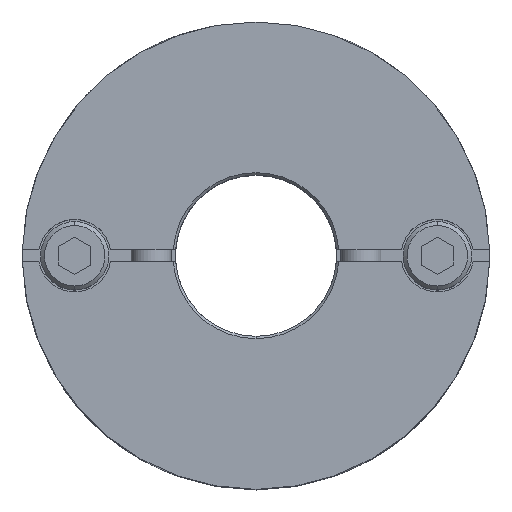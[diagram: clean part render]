
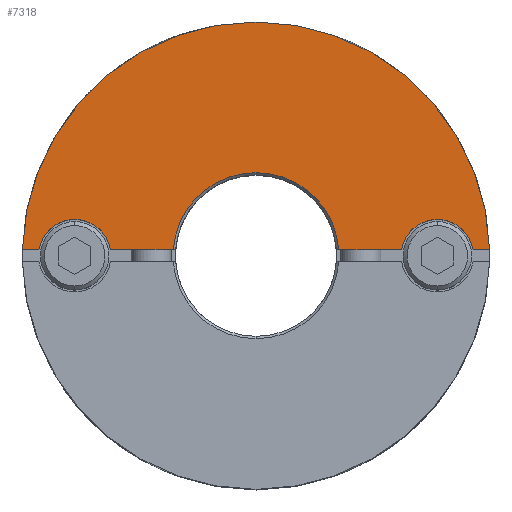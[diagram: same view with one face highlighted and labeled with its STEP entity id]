
A CAD part, top view. The second image highlights one B-rep face of the part: STEP entity #7318.
In plain terms, the highlighted planar face has unit normal (0, 0, 1).
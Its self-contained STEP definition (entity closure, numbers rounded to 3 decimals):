
#605=CARTESIAN_POINT('',(0.,29.,22.4));
#606=VERTEX_POINT('',#605);
#690=CARTESIAN_POINT('',(-28.99,0.75,22.4));
#691=VERTEX_POINT('',#690);
#698=CARTESIAN_POINT('',(0.0,0.,22.4));
#699=DIRECTION('',(0.0,0.0,-1.0));
#700=DIRECTION('',(0.0,1.0,0.0));
#701=AXIS2_PLACEMENT_3D('',#698,#699,#700);
#702=CIRCLE('',#701,29.0);
#703=EDGE_CURVE('',#691,#606,#702,.T.);
#1021=CARTESIAN_POINT('',(0.,10.3,22.4));
#1022=VERTEX_POINT('',#1021);
#1029=CARTESIAN_POINT('',(-10.273,0.75,22.4));
#1030=VERTEX_POINT('',#1029);
#1031=CARTESIAN_POINT('',(0.0,0.,22.4));
#1032=DIRECTION('',(0.0,0.0,1.0));
#1033=DIRECTION('',(0.0,-1.0,0.0));
#1034=AXIS2_PLACEMENT_3D('',#1031,#1032,#1033);
#1035=CIRCLE('',#1034,10.3);
#1036=EDGE_CURVE('',#1022,#1030,#1035,.T.);
#1099=CARTESIAN_POINT('',(-22.5,4.5,22.4));
#1100=VERTEX_POINT('',#1099);
#1109=CARTESIAN_POINT('',(-26.937,0.75,22.4));
#1110=VERTEX_POINT('',#1109);
#1111=CARTESIAN_POINT('',(-22.5,0.,22.4));
#1112=DIRECTION('',(0.0,0.0,-1.0));
#1113=DIRECTION('',(0.0,1.0,0.0));
#1114=AXIS2_PLACEMENT_3D('',#1111,#1112,#1113);
#1115=CIRCLE('',#1114,4.5);
#1116=EDGE_CURVE('',#1110,#1100,#1115,.T.);
#1183=CARTESIAN_POINT('',(22.5,4.5,22.4));
#1184=VERTEX_POINT('',#1183);
#1193=CARTESIAN_POINT('',(18.063,0.75,22.4));
#1194=VERTEX_POINT('',#1193);
#1195=CARTESIAN_POINT('',(22.5,0.,22.4));
#1196=DIRECTION('',(0.0,0.0,-1.0));
#1197=DIRECTION('',(0.0,1.0,0.0));
#1198=AXIS2_PLACEMENT_3D('',#1195,#1196,#1197);
#1199=CIRCLE('',#1198,4.5);
#1200=EDGE_CURVE('',#1194,#1184,#1199,.T.);
#6994=CARTESIAN_POINT('',(26.937,0.75,22.4));
#6995=VERTEX_POINT('',#6994);
#7002=CARTESIAN_POINT('',(22.5,0.,22.4));
#7003=DIRECTION('',(0.0,0.0,-1.0));
#7004=DIRECTION('',(0.0,1.0,0.0));
#7005=AXIS2_PLACEMENT_3D('',#7002,#7003,#7004);
#7006=CIRCLE('',#7005,4.5);
#7007=EDGE_CURVE('',#1184,#6995,#7006,.T.);
#7060=CARTESIAN_POINT('',(-18.063,0.75,22.4));
#7061=VERTEX_POINT('',#7060);
#7068=CARTESIAN_POINT('',(-22.5,0.,22.4));
#7069=DIRECTION('',(0.0,0.0,-1.0));
#7070=DIRECTION('',(0.0,1.0,0.0));
#7071=AXIS2_PLACEMENT_3D('',#7068,#7069,#7070);
#7072=CIRCLE('',#7071,4.5);
#7073=EDGE_CURVE('',#1100,#7061,#7072,.T.);
#7092=CARTESIAN_POINT('',(28.99,0.75,22.4));
#7093=VERTEX_POINT('',#7092);
#7100=CARTESIAN_POINT('',(26.937,0.75,22.4));
#7101=DIRECTION('',(1.0,0.0,0.0));
#7102=VECTOR('',#7101,2.053);
#7103=LINE('',#7100,#7102);
#7104=EDGE_CURVE('',#6995,#7093,#7103,.T.);
#7115=CARTESIAN_POINT('',(10.273,0.75,22.4));
#7116=VERTEX_POINT('',#7115);
#7117=CARTESIAN_POINT('',(10.273,0.75,22.4));
#7118=DIRECTION('',(1.0,0.0,0.0));
#7119=VECTOR('',#7118,7.79);
#7120=LINE('',#7117,#7119);
#7121=EDGE_CURVE('',#7116,#1194,#7120,.T.);
#7277=CARTESIAN_POINT('',(0.,2.636,22.4));
#7278=DIRECTION('',(0.0,0.0,1.0));
#7279=DIRECTION('',(0.0,1.0,0.0));
#7280=AXIS2_PLACEMENT_3D('',#7277,#7278,#7279);
#7281=PLANE('',#7280);
#7282=ORIENTED_EDGE('',*,*,#1200,.T.);
#7283=ORIENTED_EDGE('',*,*,#7007,.T.);
#7284=ORIENTED_EDGE('',*,*,#7104,.T.);
#7285=CARTESIAN_POINT('',(0.0,0.,22.4));
#7286=DIRECTION('',(0.0,0.0,-1.0));
#7287=DIRECTION('',(0.0,1.0,0.0));
#7288=AXIS2_PLACEMENT_3D('',#7285,#7286,#7287);
#7289=CIRCLE('',#7288,29.0);
#7290=EDGE_CURVE('',#606,#7093,#7289,.T.);
#7291=ORIENTED_EDGE('',*,*,#7290,.F.);
#7292=ORIENTED_EDGE('',*,*,#703,.F.);
#7293=CARTESIAN_POINT('',(-28.99,0.75,22.4));
#7294=DIRECTION('',(1.0,0.0,0.0));
#7295=VECTOR('',#7294,2.053);
#7296=LINE('',#7293,#7295);
#7297=EDGE_CURVE('',#691,#1110,#7296,.T.);
#7298=ORIENTED_EDGE('',*,*,#7297,.T.);
#7299=ORIENTED_EDGE('',*,*,#1116,.T.);
#7300=ORIENTED_EDGE('',*,*,#7073,.T.);
#7301=CARTESIAN_POINT('',(-18.063,0.75,22.4));
#7302=DIRECTION('',(1.0,0.0,0.0));
#7303=VECTOR('',#7302,7.79);
#7304=LINE('',#7301,#7303);
#7305=EDGE_CURVE('',#7061,#1030,#7304,.T.);
#7306=ORIENTED_EDGE('',*,*,#7305,.T.);
#7307=ORIENTED_EDGE('',*,*,#1036,.F.);
#7308=CARTESIAN_POINT('',(0.0,0.,22.4));
#7309=DIRECTION('',(0.0,0.0,1.0));
#7310=DIRECTION('',(0.0,-1.0,0.0));
#7311=AXIS2_PLACEMENT_3D('',#7308,#7309,#7310);
#7312=CIRCLE('',#7311,10.3);
#7313=EDGE_CURVE('',#7116,#1022,#7312,.T.);
#7314=ORIENTED_EDGE('',*,*,#7313,.F.);
#7315=ORIENTED_EDGE('',*,*,#7121,.T.);
#7316=EDGE_LOOP('',(#7282,#7283,#7284,#7291,#7292,#7298,#7299,#7300,#7306,#7307,#7314,#7315));
#7317=FACE_OUTER_BOUND('',#7316,.T.);
#7318=ADVANCED_FACE('',(#7317),#7281,.T.);
